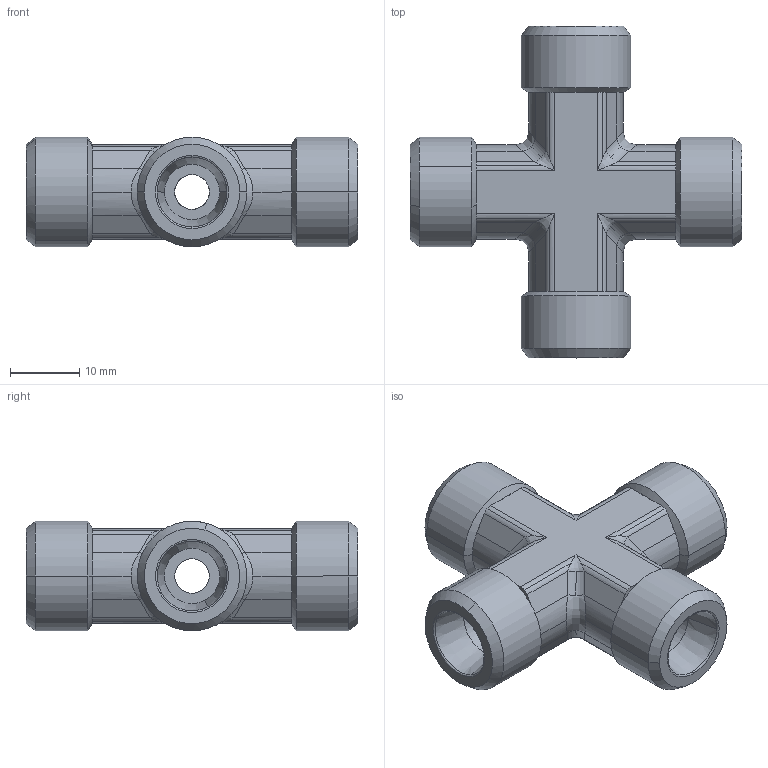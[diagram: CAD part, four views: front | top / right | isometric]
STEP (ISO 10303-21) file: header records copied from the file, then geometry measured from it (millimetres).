
FILE_DESCRIPTION((''),'2;1');
FILE_NAME('104015.stp','2007-10-31T13:14:50',(''),(''),'AutoCAD STEP 2000i','AutoCAD 2000i',', , ');
FILE_SCHEMA(('CONFIG_CONTROL_DESIGN'));
Length unit declared in the file: millimetre
Products named in the file (2): 104015.0; 3093#0
Assembly tree (1 placements, depth 2):
  104015.0
    3093#0
Bounding box: 48 x 48 x 15.85 mm (x, y, z)
Volume: 11535.8 mm3; surface area: 6026.3 mm2
Topology: 1 solids, 1 shells, 174 faces, 428 edges, 250 vertices
Faces by surface type: cylinder 88, plane 42, cone 24, bspline 20
Entity records: 6669 total; most frequent: CARTESIAN_POINT 2374, DIRECTION 976, ORIENTED_EDGE 840, EDGE_CURVE 420, AXIS2_PLACEMENT_3D 400, VERTEX_POINT 250, CIRCLE 186, EDGE_LOOP 182
